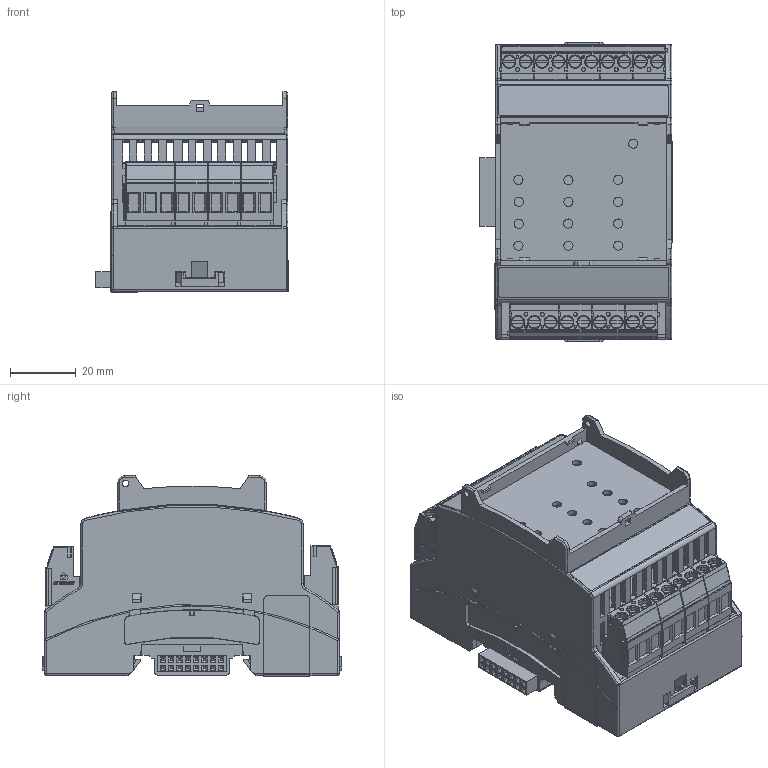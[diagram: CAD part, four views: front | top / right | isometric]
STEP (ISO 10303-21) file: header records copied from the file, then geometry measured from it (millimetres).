
FILE_DESCRIPTION(/* description */ (''),/* implementation_level */ '2;1');
FILE_NAME(/* name */ 'D:\WorkIMT\Project IMT\ИРИС-DIN\v2\!dido\3D модель\IRIS-DIN.8DI4DO 3D.stp',/* time_stamp */ '2024-02-06T16:23:37+03:00',/* author */ ('Admin'),/* organization */ (''),/* preprocessor_version */ 'ST-DEVELOPER v17.2',/* originating_system */ 'Autodesk Inventor 2019',/* authorisation */ '');
FILE_SCHEMA (('AUTOMOTIVE_DESIGN { 1 0 10303 214 3 1 1 }'));
Products named in the file (1): IRIS-DIN.8DI4DO 3D
Bounding box: 58.5 x 91 x 60.9 mm (x, y, z)
Volume: 74919.5 mm3; surface area: 74007.3 mm2
Topology: 14 solids, 71 shells, 7173 faces, 19979 edges, 13023 vertices
Faces by surface type: plane 5923, cylinder 937, torus 121, sphere 80, cone 65, bspline 47
Full cylindrical faces by diameter (mm): 0.2 x118, 1 x18, 1.5 x1, 1.8 x4, 2 x6, 2.4 x2, 2.8 x13, 3 x19, 3.85 x13, 4.05 x19, 6 x1, 7 x2
Entity records: 244012 total; most frequent: CARTESIAN_POINT 50861, ORIENTED_EDGE 39798, DIRECTION 36367, EDGE_CURVE 19899, LINE 16945, VECTOR 16945, VERTEX_POINT 13023, AXIS2_PLACEMENT_3D 9711
